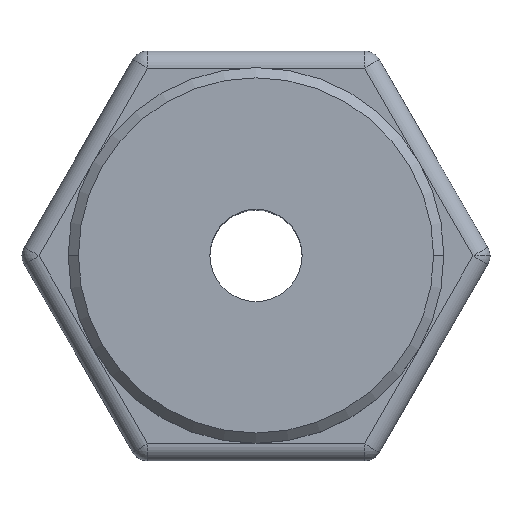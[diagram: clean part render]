
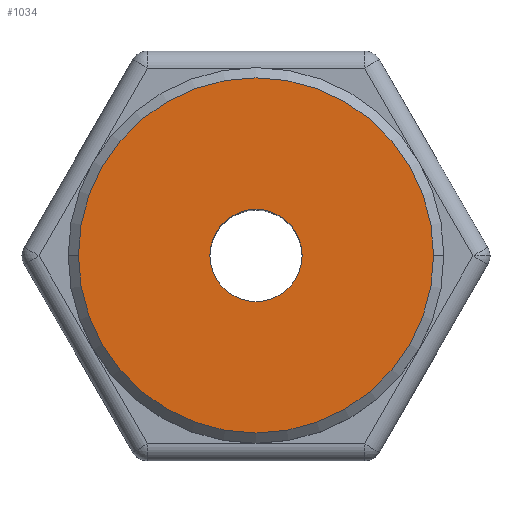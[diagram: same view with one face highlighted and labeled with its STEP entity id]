
A CAD part, top view. The second image highlights one B-rep face of the part: STEP entity #1034.
In plain terms, the highlighted planar face has unit normal (0, 0, 1).
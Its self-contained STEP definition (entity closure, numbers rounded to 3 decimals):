
#41 = VERTEX_POINT ( 'NONE', #736 ) ;
#95 = CIRCLE ( 'NONE', #1654, 5.2 ) ;
#119 = DIRECTION ( 'NONE',  ( 1., 0., 0. ) ) ;
#284 = CARTESIAN_POINT ( 'NONE',  ( -1.35, 0., 16. ) ) ;
#349 = DIRECTION ( 'NONE',  ( 1., 0., 0. ) ) ;
#359 = AXIS2_PLACEMENT_3D ( 'NONE', #1804, #1175, #119 ) ;
#483 = ORIENTED_EDGE ( 'NONE', *, *, #1345, .T. ) ;
#517 = DIRECTION ( 'NONE',  ( 0., 0., -1. ) ) ;
#577 = PLANE ( 'NONE',  #1361 ) ;
#636 = CARTESIAN_POINT ( 'NONE',  ( 0., 0., 16. ) ) ;
#736 = CARTESIAN_POINT ( 'NONE',  ( 1.35, 0., 16. ) ) ;
#813 = CARTESIAN_POINT ( 'NONE',  ( 5.2, 0., 16. ) ) ;
#818 = VERTEX_POINT ( 'NONE', #284 ) ;
#1034 = ADVANCED_FACE ( 'NONE', ( #2255, #1453 ), #577, .T. ) ;
#1049 = AXIS2_PLACEMENT_3D ( 'NONE', #1571, #517, #2001 ) ;
#1069 = ORIENTED_EDGE ( 'NONE', *, *, #1953, .T. ) ;
#1120 = EDGE_LOOP ( 'NONE', ( #1148, #483 ) ) ;
#1148 = ORIENTED_EDGE ( 'NONE', *, *, #2689, .T. ) ;
#1175 = DIRECTION ( 'NONE',  ( 0., 0., 1. ) ) ;
#1226 = CARTESIAN_POINT ( 'NONE',  ( 0., 0., 16. ) ) ;
#1345 = EDGE_CURVE ( 'NONE', #41, #818, #1544, .T. ) ;
#1361 = AXIS2_PLACEMENT_3D ( 'NONE', #1226, #2240, #349 ) ;
#1453 = FACE_BOUND ( 'NONE', #1120, .T. ) ;
#1544 = CIRCLE ( 'NONE', #1049, 1.35 ) ;
#1571 = CARTESIAN_POINT ( 'NONE',  ( 0., 0., 16. ) ) ;
#1641 = CARTESIAN_POINT ( 'NONE',  ( -5.2, 0., 16. ) ) ;
#1654 = AXIS2_PLACEMENT_3D ( 'NONE', #636, #1736, #1751 ) ;
#1736 = DIRECTION ( 'NONE',  ( 0., 0., 1. ) ) ;
#1751 = DIRECTION ( 'NONE',  ( 1., 0., 0. ) ) ;
#1788 = VERTEX_POINT ( 'NONE', #1641 ) ;
#1804 = CARTESIAN_POINT ( 'NONE',  ( 0., 0., 16. ) ) ;
#1846 = CIRCLE ( 'NONE', #2740, 1.35 ) ;
#1876 = EDGE_LOOP ( 'NONE', ( #2193, #1069 ) ) ;
#1953 = EDGE_CURVE ( 'NONE', #2362, #1788, #95, .T. ) ;
#2001 = DIRECTION ( 'NONE',  ( 1., 0., 0. ) ) ;
#2151 = EDGE_CURVE ( 'NONE', #1788, #2362, #2453, .T. ) ;
#2193 = ORIENTED_EDGE ( 'NONE', *, *, #2151, .T. ) ;
#2240 = DIRECTION ( 'NONE',  ( 0., 0., 1. ) ) ;
#2255 = FACE_OUTER_BOUND ( 'NONE', #1876, .T. ) ;
#2319 = DIRECTION ( 'NONE',  ( 1., 0., 0. ) ) ;
#2356 = CARTESIAN_POINT ( 'NONE',  ( 0., 0., 16. ) ) ;
#2362 = VERTEX_POINT ( 'NONE', #813 ) ;
#2453 = CIRCLE ( 'NONE', #359, 5.2 ) ;
#2689 = EDGE_CURVE ( 'NONE', #818, #41, #1846, .T. ) ;
#2735 = DIRECTION ( 'NONE',  ( 0., 0., -1. ) ) ;
#2740 = AXIS2_PLACEMENT_3D ( 'NONE', #2356, #2735, #2319 ) ;
